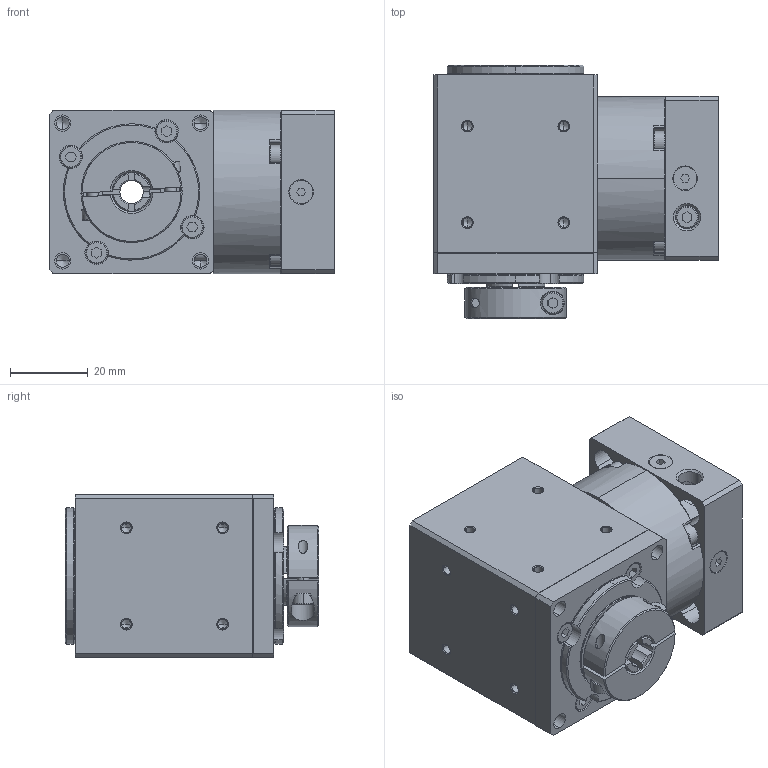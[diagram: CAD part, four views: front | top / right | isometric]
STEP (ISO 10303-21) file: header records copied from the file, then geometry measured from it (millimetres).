
FILE_DESCRIPTION (( 'STEP AP203' ), '1' );
FILE_NAME ('RLHS-042-00X.STEP', '2012-02-27T17:06:46', ( 'render' ), ( '' ), 'SwSTEP 2.0', 'SolidWorks 2011', '' );
FILE_SCHEMA (( 'CONFIG_CONTROL_DESIGN' ));
Products named in the file (1): RLHS-042-00X
Bounding box: 73 x 65 x 42 mm (x, y, z)
Volume: 107715.7 mm3; surface area: 66966.1 mm2
Topology: 35 solids, 37 shells, 1407 faces, 3598 edges, 2257 vertices
Faces by surface type: cylinder 478, plane 389, cone 384, bspline 156
Entity records: 60703 total; most frequent: CARTESIAN_POINT 27752, ORIENTED_EDGE 7064, DIRECTION 6648, EDGE_CURVE 3532, AXIS2_PLACEMENT_3D 2614, VERTEX_POINT 2257, EDGE_LOOP 1591, VECTOR 1420
